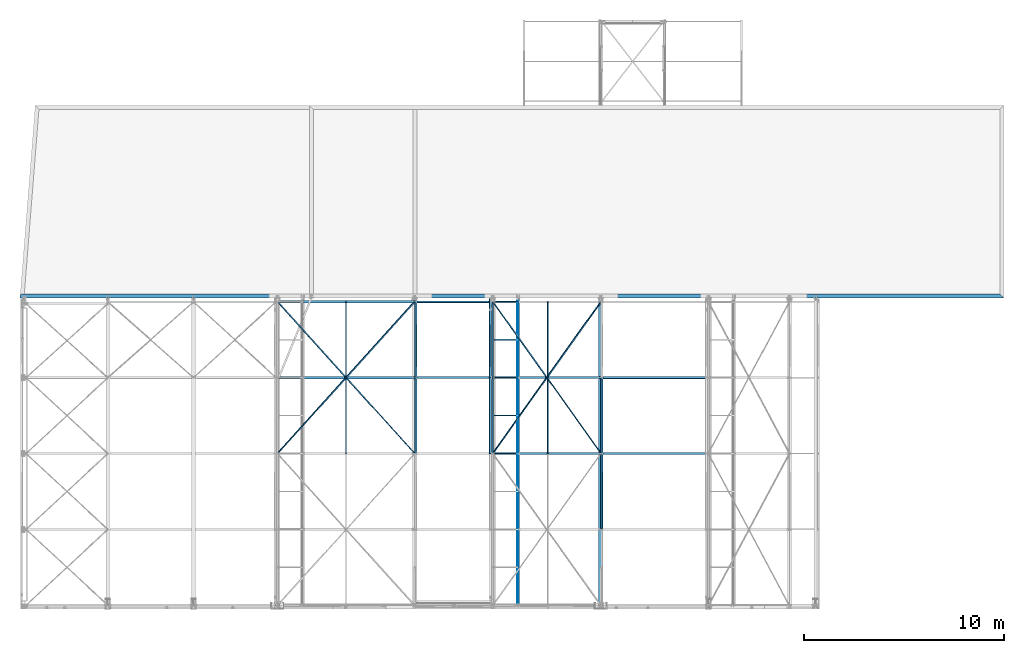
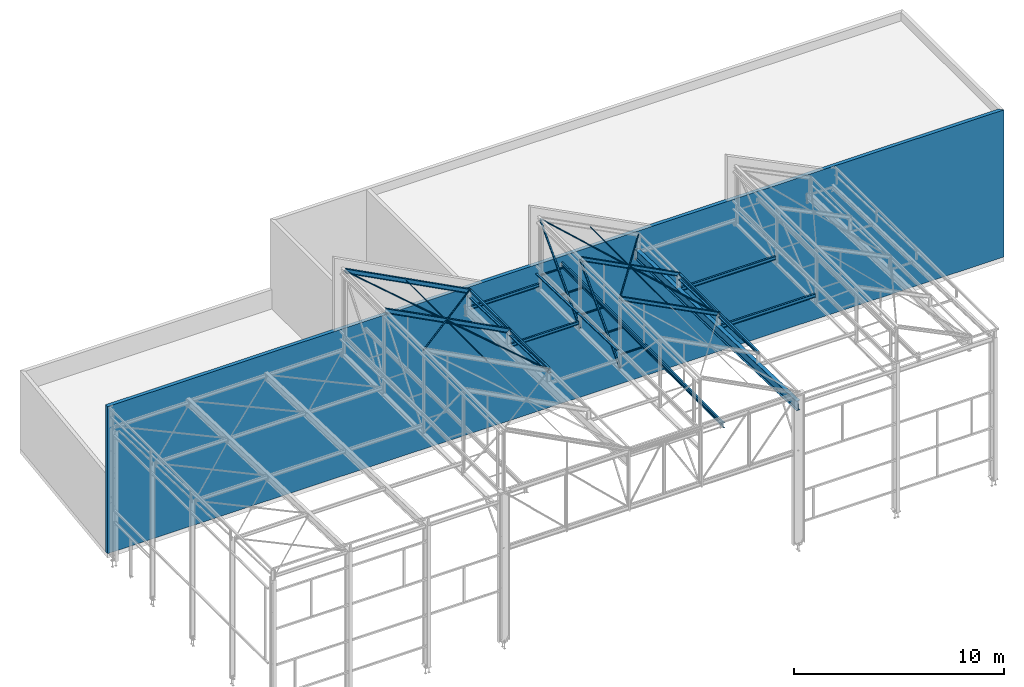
# One storey, part 33 of 123: 31 beams, 6 members, 37 elements without a shape of their own.
"""IFC2X3 building model written with IfcOpenShell, lengths in millimetres."""

from ifc_helpers import new_model, si_unit, frame, origin_with_axes, origin_2d_with_axis, place, context, subcontext, project, spatial, rectangle, hollow_rectangle, i_section, l_section, u_section, extrude, clip, halfspace, material, type_object, element, aggregate, save


model = new_model("IFC2X3")

# Units and contexts
model_context = context("Model", 3, precision=1e-05, world=origin_with_axes())
body_context = subcontext(model_context, "Body", "Model", "MODEL_VIEW")
ifc_project = project(units=[si_unit("LENGTHUNIT", "METRE", prefix="MILLI"), si_unit("AREAUNIT", "SQUARE_METRE"), si_unit("VOLUMEUNIT", "CUBIC_METRE"), si_unit("MASSUNIT", "GRAM", prefix="KILO"), si_unit("TIMEUNIT", "SECOND"), si_unit("PLANEANGLEUNIT", "RADIAN"), si_unit("SOLIDANGLEUNIT", "STERADIAN"), si_unit("THERMODYNAMICTEMPERATUREUNIT", "DEGREE_CELSIUS"), si_unit("LUMINOUSINTENSITYUNIT", "LUMEN")], contexts=[model_context])

# Site, building, storey
site_placement = place(None, origin_with_axes())
site = spatial("IfcSite", under=ifc_project, at=site_placement, Name="Undefined", CompositionType="ELEMENT")
building_placement = place(site_placement, origin_with_axes())
building = spatial("IfcBuilding", under=site, at=building_placement, Name="Undefined", CompositionType="ELEMENT")
storey_placement = place(building_placement, origin_with_axes())
storey = spatial("IfcBuildingStorey", under=building, at=storey_placement, Name="Undefined", CompositionType="ELEMENT", Elevation=0.0)

# Assembly, beam
assembly_1_placement = place(storey_placement, origin_with_axes())
assembly_1 = element("IfcElementAssembly", 1, at=assembly_1_placement, inside=storey, Name="Steel Assembly", AssemblyPlace="NOTDEFINED", PredefinedType="RIGID_FRAME")
ifc_material_1 = material(Name="STEEL/S235-E24")
beam_type_1 = type_object("IfcBeamType", Name="UPF-100*50*4", PredefinedType="NOTDEFINED")
beam_1_placement = place(assembly_1_placement, frame((23353.5000000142, 11400.0, 8171.98873515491), z_axis=(1.0, 0.0, 0.0), x_axis=(0.0, 0.999506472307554, -0.0314135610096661)))
beam_1 = element("IfcBeam", 2, at=beam_1_placement, type_object=beam_type_1, material=ifc_material_1, Name="LISSE CONTREBARDAGE", ObjectType="UPF-100*50*4", context=body_context, shape_type="Clipping", body=[
    clip(extrude(u_section(Depth=100.0, FlangeWidth=50.0, WebThickness=4.0, FlangeThickness=4.0, at=origin_2d_with_axis()), frame((3991.97014790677, 0.0, 0.0), z_axis=(-1.0, 0.0, 0.0), x_axis=(0.0, -1.0, 0.0)), (0.0, 0.0, 1.0), 3992.0), halfspace(frame((3962.74106203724, -25.0, -50.0), z_axis=(0.999506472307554, 0.0314135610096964, 0.0), x_axis=(0.0, 0.0, 1.0)), False)),
])
aggregate(assembly_1, [beam_1])

assembly_2_placement = place(storey_placement, origin_with_axes())
assembly_2 = element("IfcElementAssembly", 3, at=assembly_2_placement, inside=storey, Name="Steel Assembly", AssemblyPlace="NOTDEFINED", PredefinedType="RIGID_FRAME")
beam_2_placement = place(assembly_2_placement, frame((23353.5000000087, 7600.0, 8291.42237510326), z_axis=(1.0, 0.0, 0.0), x_axis=(0.0, 0.999506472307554, -0.0314135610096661)))
beam_2 = element("IfcBeam", 4, at=beam_2_placement, type_object=beam_type_1, material=ifc_material_1, Name="LISSE CONTREBARDAGE", ObjectType="UPF-100*50*4", context=body_context, shape_type="SweptSolid", body=[
    extrude(u_section(Depth=100.0, FlangeWidth=50.0, WebThickness=4.0, FlangeThickness=4.0, at=origin_2d_with_axis()), frame((3801.87643069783, 2.63808171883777e-14, 0.0), z_axis=(-1.0, 0.0, 0.0), x_axis=(0.0, -1.0, 0.0)), (0.0, 0.0, 1.0), 3801.9),
])
aggregate(assembly_2, [beam_2])

assembly_3_placement = place(storey_placement, origin_with_axes())
assembly_3 = element("IfcElementAssembly", 5, at=assembly_3_placement, inside=storey, Name="Steel Assembly", AssemblyPlace="NOTDEFINED", PredefinedType="RIGID_FRAME")
beam_3_placement = place(assembly_3_placement, frame((28930.0000000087, 7600.0, 8291.42237510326), z_axis=(1.0, 0.0, 0.0), x_axis=(0.0, 0.999506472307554, -0.0314135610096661)))
beam_3 = element("IfcBeam", 6, at=beam_3_placement, type_object=beam_type_1, material=ifc_material_1, Name="LISSE CONTREBARDAGE", ObjectType="UPF-100*50*4", context=body_context, shape_type="SweptSolid", body=[
    extrude(u_section(Depth=100.0, FlangeWidth=50.0, WebThickness=4.0, FlangeThickness=4.0, at=origin_2d_with_axis()), frame((3801.87643069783, 2.63808171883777e-14, 0.0), z_axis=(-1.0, 0.0, 0.0), x_axis=(0.0, -1.0, 0.0)), (0.0, 0.0, 1.0), 3801.9),
])
aggregate(assembly_3, [beam_3])

assembly_4_placement = place(storey_placement, origin_with_axes())
assembly_4 = element("IfcElementAssembly", 7, at=assembly_4_placement, inside=storey, Name="Steel Assembly", AssemblyPlace="NOTDEFINED", PredefinedType="RIGID_FRAME")
beam_4_placement = place(assembly_4_placement, frame((28930.0000000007, 3800.0, 8410.85601504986), z_axis=(1.0, 0.0, 0.0), x_axis=(0.0, 0.999506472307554, -0.0314135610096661)))
beam_4 = element("IfcBeam", 8, at=beam_4_placement, type_object=beam_type_1, material=ifc_material_1, Name="LISSE CONTREBARDAGE", ObjectType="UPF-100*50*4", context=body_context, shape_type="SweptSolid", body=[
    extrude(u_section(Depth=100.0, FlangeWidth=50.0, WebThickness=4.0, FlangeThickness=4.0, at=origin_2d_with_axis()), frame((3801.87643069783, 2.63808171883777e-14, 0.0), z_axis=(-1.0, 0.0, 0.0), x_axis=(0.0, -1.0, 0.0)), (0.0, 0.0, 1.0), 3801.9),
])
aggregate(assembly_4, [beam_4])

assembly_5_placement = place(storey_placement, origin_with_axes())
assembly_5 = element("IfcElementAssembly", 9, at=assembly_5_placement, inside=storey, Name="Steel Assembly", AssemblyPlace="NOTDEFINED", PredefinedType="RIGID_FRAME")
beam_5_placement = place(assembly_5_placement, frame((19620.0000000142, 11400.0, 8171.98873515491), z_axis=(1.0, 0.0, 0.0), x_axis=(0.0, 0.999506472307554, -0.0314135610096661)))
beam_5 = element("IfcBeam", 10, at=beam_5_placement, type_object=beam_type_1, material=ifc_material_1, Name="LISSE CONTREBARDAGE", ObjectType="UPF-100*50*4", context=body_context, shape_type="Clipping", body=[
    clip(extrude(u_section(Depth=100.0, FlangeWidth=50.0, WebThickness=4.0, FlangeThickness=4.0, at=origin_2d_with_axis()), frame((3991.97014790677, 0.0, 0.0), z_axis=(-1.0, 0.0, 0.0), x_axis=(0.0, -1.0, 0.0)), (0.0, 0.0, 1.0), 3992.0), halfspace(frame((3962.74106203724, -25.0, -50.0), z_axis=(0.999506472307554, 0.0314135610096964, 0.0), x_axis=(0.0, 0.0, 1.0)), False)),
])
aggregate(assembly_5, [beam_5])

assembly_6_placement = place(storey_placement, origin_with_axes())
assembly_6 = element("IfcElementAssembly", 11, at=assembly_6_placement, inside=storey, Name="Steel Assembly", AssemblyPlace="NOTDEFINED", PredefinedType="RIGID_FRAME")
beam_6_placement = place(assembly_6_placement, frame((19620.0000000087, 7600.0, 8291.42237510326), z_axis=(1.0, 0.0, 0.0), x_axis=(0.0, 0.999506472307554, -0.0314135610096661)))
beam_6 = element("IfcBeam", 12, at=beam_6_placement, type_object=beam_type_1, material=ifc_material_1, Name="LISSE CONTREBARDAGE", ObjectType="UPF-100*50*4", context=body_context, shape_type="SweptSolid", body=[
    extrude(u_section(Depth=100.0, FlangeWidth=50.0, WebThickness=4.0, FlangeThickness=4.0, at=origin_2d_with_axis()), frame((3801.87643069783, 2.63808171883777e-14, 0.0), z_axis=(-1.0, 0.0, 0.0), x_axis=(0.0, -1.0, 0.0)), (0.0, 0.0, 1.0), 3801.9),
])
aggregate(assembly_6, [beam_6])

assembly_7_placement = place(storey_placement, origin_with_axes())
assembly_7 = element("IfcElementAssembly", 13, at=assembly_7_placement, inside=storey, Name="Steel Assembly", AssemblyPlace="NOTDEFINED", PredefinedType="RIGID_FRAME")
beam_type_2 = type_object("IfcBeamType", Name="TUBE-C-60*60*3", PredefinedType="NOTDEFINED")
beam_7_placement = place(assembly_7_placement, frame((23541.500056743, 13300.0, 8015.0), z_axis=(0.0, -1.0, 0.0), x_axis=(1.0, 0.0, 0.0)))
beam_7 = element("IfcBeam", 14, at=beam_7_placement, type_object=beam_type_2, material=ifc_material_1, Name="SOLIVE", ObjectType="TUBE-C-60*60*3", context=body_context, shape_type="SweptSolid", body=[
    extrude(hollow_rectangle(XDim=60.0, YDim=60.0, WallThickness=3.0, InnerFilletRadius=3.0, OuterFilletRadius=6.0, at=origin_2d_with_axis()), frame((1194.99154388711, 0.0, 0.0), z_axis=(-1.0, 0.0, 0.0), x_axis=(0.0, -1.0, 0.0)), (0.0, 0.0, 1.0), 1195.0),
])
aggregate(assembly_7, [beam_7])

assembly_8_placement = place(storey_placement, origin_with_axes())
assembly_8 = element("IfcElementAssembly", 15, at=assembly_8_placement, inside=storey, Name="Steel Assembly", AssemblyPlace="NOTDEFINED", PredefinedType="RIGID_FRAME")
beam_8_placement = place(assembly_8_placement, frame((23541.500056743, 9500.0, 8015.0), z_axis=(0.0, -1.0, 0.0), x_axis=(1.0, 0.0, 0.0)))
beam_8 = element("IfcBeam", 16, at=beam_8_placement, type_object=beam_type_2, material=ifc_material_1, Name="SOLIVE", ObjectType="TUBE-C-60*60*3", context=body_context, shape_type="SweptSolid", body=[
    extrude(hollow_rectangle(XDim=60.0, YDim=60.0, WallThickness=3.0, InnerFilletRadius=3.0, OuterFilletRadius=6.0, at=origin_2d_with_axis()), frame((1194.99154388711, 0.0, 0.0), z_axis=(-1.0, 0.0, 0.0), x_axis=(0.0, -1.0, 0.0)), (0.0, 0.0, 1.0), 1195.0),
])
aggregate(assembly_8, [beam_8])

assembly_9_placement = place(storey_placement, origin_with_axes())
assembly_9 = element("IfcElementAssembly", 17, at=assembly_9_placement, inside=storey, Name="Steel Assembly", AssemblyPlace="NOTDEFINED", PredefinedType="RIGID_FRAME")
beam_9_placement = place(assembly_9_placement, frame((23541.500056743, 15200.0, 8015.0), z_axis=(0.0, -1.0, 0.0), x_axis=(1.0, 0.0, 0.0)))
beam_9 = element("IfcBeam", 18, at=beam_9_placement, type_object=beam_type_2, material=ifc_material_1, Name="SOLIVE", ObjectType="TUBE-C-60*60*3", context=body_context, shape_type="SweptSolid", body=[
    extrude(hollow_rectangle(XDim=60.0, YDim=60.0, WallThickness=3.0, InnerFilletRadius=3.0, OuterFilletRadius=6.0, at=origin_2d_with_axis()), frame((1194.99154388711, 0.0, 0.0), z_axis=(-1.0, 0.0, 0.0), x_axis=(0.0, -1.0, 0.0)), (0.0, 0.0, 1.0), 1195.0),
])
aggregate(assembly_9, [beam_9])

assembly_10_placement = place(storey_placement, origin_with_axes())
assembly_10 = element("IfcElementAssembly", 19, at=assembly_10_placement, inside=storey, Name="Steel Assembly", AssemblyPlace="NOTDEFINED", PredefinedType="RIGID_FRAME")
beam_10_placement = place(assembly_10_placement, frame((23541.500056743, 11400.0, 8015.0), z_axis=(0.0, -1.0, 0.0), x_axis=(1.0, 0.0, 0.0)))
beam_10 = element("IfcBeam", 20, at=beam_10_placement, type_object=beam_type_2, material=ifc_material_1, Name="SOLIVE", ObjectType="TUBE-C-60*60*3", context=body_context, shape_type="SweptSolid", body=[
    extrude(hollow_rectangle(XDim=60.0, YDim=60.0, WallThickness=3.0, InnerFilletRadius=3.0, OuterFilletRadius=6.0, at=origin_2d_with_axis()), frame((1194.99154388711, 0.0, 0.0), z_axis=(-1.0, 0.0, 0.0), x_axis=(0.0, -1.0, 0.0)), (0.0, 0.0, 1.0), 1195.0),
])
aggregate(assembly_10, [beam_10])

assembly_11_placement = place(storey_placement, origin_with_axes())
assembly_11 = element("IfcElementAssembly", 21, at=assembly_11_placement, inside=storey, Name="Steel Assembly", AssemblyPlace="NOTDEFINED", PredefinedType="RIGID_FRAME")
beam_11_placement = place(assembly_11_placement, frame((23541.500056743, 7600.0, 8015.0), z_axis=(0.0, -1.0, 0.0), x_axis=(1.0, 0.0, 0.0)))
beam_11 = element("IfcBeam", 22, at=beam_11_placement, type_object=beam_type_2, material=ifc_material_1, Name="SOLIVE", ObjectType="TUBE-C-60*60*3", context=body_context, shape_type="SweptSolid", body=[
    extrude(hollow_rectangle(XDim=60.0, YDim=60.0, WallThickness=3.0, InnerFilletRadius=3.0, OuterFilletRadius=6.0, at=origin_2d_with_axis()), frame((1194.99154388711, 0.0, 0.0), z_axis=(-1.0, 0.0, 0.0), x_axis=(0.0, -1.0, 0.0)), (0.0, 0.0, 1.0), 1195.0),
])
aggregate(assembly_11, [beam_11])

assembly_12_placement = place(storey_placement, origin_with_axes())
assembly_12 = element("IfcElementAssembly", 23, at=assembly_12_placement, inside=storey, Name="Steel Assembly", AssemblyPlace="NOTDEFINED", PredefinedType="RIGID_FRAME")
beam_type_3 = type_object("IfcBeamType", Name="UPF-300*82.5*6", PredefinedType="NOTDEFINED")
beam_12_placement = place(assembly_12_placement, frame((24777.7416006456, 15360.0000093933, 8090.0), z_axis=(0.0, 0.0, -1.0), x_axis=(0.0, -1.0, 0.0)))
beam_12 = element("IfcBeam", 24, at=beam_12_placement, type_object=beam_type_3, material=ifc_material_1, Name="LONGERON", ObjectType="UPF-300*82.5*6", context=body_context, shape_type="SweptSolid", body=[
    extrude(u_section(Depth=300.0, FlangeWidth=82.5, WebThickness=6.0, FlangeThickness=6.0, at=origin_2d_with_axis()), frame((15430.0000255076, 0.0, 0.0), z_axis=(-1.0, 0.0, 0.0), x_axis=(0.0, -1.0, 0.0)), (0.0, 0.0, 1.0), 15430.0),
])
aggregate(assembly_12, [beam_12])

assembly_13_placement = place(storey_placement, origin_with_axes())
assembly_13 = element("IfcElementAssembly", 25, at=assembly_13_placement, inside=storey, Name="Steel Assembly", AssemblyPlace="NOTDEFINED", PredefinedType="RIGID_FRAME")
beam_type_4 = type_object("IfcBeamType", Name="TUBE-C-100*100*4", PredefinedType="NOTDEFINED")
beam_13_placement = place(assembly_13_placement, frame((28929.9999999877, 7655.0, 8500.0), z_axis=(0.0, 0.0, 1.0), x_axis=(0.0, 1.0, 0.0)))
beam_13 = element("IfcBeam", 26, at=beam_13_placement, type_object=beam_type_4, material=ifc_material_1, Name="LISSE ACROTERE", ObjectType="TUBE-C-100*100*4", context=body_context, shape_type="SweptSolid", body=[
    extrude(hollow_rectangle(XDim=100.0, YDim=100.0, WallThickness=4.0, InnerFilletRadius=4.0, OuterFilletRadius=8.0, at=origin_2d_with_axis()), frame((3690.0, 0.0, 0.0), z_axis=(-1.0, 0.0, 0.0), x_axis=(0.0, -1.0, 0.0)), (0.0, 0.0, 1.0), 3690.0),
])
aggregate(assembly_13, [beam_13])

assembly_14_placement = place(storey_placement, origin_with_axes())
assembly_14 = element("IfcElementAssembly", 27, at=assembly_14_placement, inside=storey, Name="Steel Assembly", AssemblyPlace="NOTDEFINED", PredefinedType="RIGID_FRAME")
beam_14_placement = place(assembly_14_placement, frame((28929.9999999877, 3855.0, 8500.0), z_axis=(0.0, 0.0, 1.0), x_axis=(0.0, 1.0, 0.0)))
beam_14 = element("IfcBeam", 28, at=beam_14_placement, type_object=beam_type_4, material=ifc_material_1, Name="LISSE ACROTERE", ObjectType="TUBE-C-100*100*4", context=body_context, shape_type="SweptSolid", body=[
    extrude(hollow_rectangle(XDim=100.0, YDim=100.0, WallThickness=4.0, InnerFilletRadius=4.0, OuterFilletRadius=8.0, at=origin_2d_with_axis()), frame((3690.0, 0.0, 0.0), z_axis=(-1.0, 0.0, 0.0), x_axis=(0.0, -1.0, 0.0)), (0.0, 0.0, 1.0), 3690.0),
])
aggregate(assembly_14, [beam_14])

assembly_15_placement = place(storey_placement, origin_with_axes())
assembly_15 = element("IfcElementAssembly", 29, at=assembly_15_placement, inside=storey, Name="Steel Assembly", AssemblyPlace="NOTDEFINED", PredefinedType="RIGID_FRAME")
beam_15_placement = place(assembly_15_placement, frame((19619.9999999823, 11465.0, 8500.0), z_axis=(0.0, 0.0, 1.0), x_axis=(0.0, 1.0, 0.0)))
beam_15 = element("IfcBeam", 30, at=beam_15_placement, type_object=beam_type_4, material=ifc_material_1, Name="LISSE ACROTERE", ObjectType="TUBE-C-100*100*4", context=body_context, shape_type="SweptSolid", body=[
    extrude(hollow_rectangle(XDim=100.0, YDim=100.0, WallThickness=4.0, InnerFilletRadius=4.0, OuterFilletRadius=8.0, at=origin_2d_with_axis()), frame((3670.0, 0.0, 0.0), z_axis=(-1.0, 0.0, 0.0), x_axis=(0.0, -1.0, 0.0)), (0.0, 0.0, 1.0), 3670.0),
])
aggregate(assembly_15, [beam_15])

assembly_16_placement = place(storey_placement, origin_with_axes())
assembly_16 = element("IfcElementAssembly", 31, at=assembly_16_placement, inside=storey, Name="Steel Assembly", AssemblyPlace="NOTDEFINED", PredefinedType="RIGID_FRAME")
beam_16_placement = place(assembly_16_placement, frame((19619.9999999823, 7665.0, 8500.0), z_axis=(0.0, 0.0, 1.0), x_axis=(0.0, 1.0, 0.0)))
beam_16 = element("IfcBeam", 32, at=beam_16_placement, type_object=beam_type_4, material=ifc_material_1, Name="LISSE ACROTERE", ObjectType="TUBE-C-100*100*4", context=body_context, shape_type="SweptSolid", body=[
    extrude(hollow_rectangle(XDim=100.0, YDim=100.0, WallThickness=4.0, InnerFilletRadius=4.0, OuterFilletRadius=8.0, at=origin_2d_with_axis()), frame((3670.0, 0.0, 0.0), z_axis=(-1.0, 0.0, 0.0), x_axis=(0.0, -1.0, 0.0)), (0.0, 0.0, 1.0), 3670.0),
])
aggregate(assembly_16, [beam_16])

# Assembly, member
assembly_17_placement = place(storey_placement, origin_with_axes())
assembly_17 = element("IfcElementAssembly", 33, at=assembly_17_placement, inside=storey, Name="Steel Assembly", AssemblyPlace="NOTDEFINED", PredefinedType="RIGID_FRAME")
member_type_1 = type_object("IfcMemberType", Name="TUBE-C-80*80*4", PredefinedType="NOTDEFINED")
member_1_placement = place(assembly_17_placement, frame((23470.0000000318, 11400.0000000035, 11236.0), z_axis=(-1.0, 0.0, 0.0), x_axis=(0.0, -0.690017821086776, -0.723792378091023)))
member_1 = element("IfcMember", 34, at=member_1_placement, type_object=member_type_1, material=ifc_material_1, Name="DIAGONALE", ObjectType="TUBE-C-80*80*4", context=body_context, shape_type="SweptSolid", body=[
    extrude(hollow_rectangle(XDim=80.0, YDim=80.0, WallThickness=4.0, InnerFilletRadius=4.0, OuterFilletRadius=8.0, at=origin_2d_with_axis()), frame((5507.10413919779, -2.12469509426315e-12, 0.0), z_axis=(-1.0, 0.0, 0.0), x_axis=(0.0, -1.0, 0.0)), (0.0, 0.0, 1.0), 5507.1),
])
aggregate(assembly_17, [member_1])

assembly_18_placement = place(storey_placement, origin_with_axes())
assembly_18 = element("IfcElementAssembly", 35, at=assembly_18_placement, inside=storey, Name="Steel Assembly", AssemblyPlace="NOTDEFINED", PredefinedType="RIGID_FRAME")
member_2_placement = place(assembly_18_placement, frame((23470.0000000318, 15200.0000000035, 11236.0), z_axis=(-1.0, 0.0, 0.0), x_axis=(0.0, -0.690017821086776, -0.723792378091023)))
member_2 = element("IfcMember", 36, at=member_2_placement, type_object=member_type_1, material=ifc_material_1, Name="DIAGONALE", ObjectType="TUBE-C-80*80*4", context=body_context, shape_type="SweptSolid", body=[
    extrude(hollow_rectangle(XDim=80.0, YDim=80.0, WallThickness=4.0, InnerFilletRadius=4.0, OuterFilletRadius=8.0, at=origin_2d_with_axis()), frame((5507.10413919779, -2.12469509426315e-12, 0.0), z_axis=(-1.0, 0.0, 0.0), x_axis=(0.0, -1.0, 0.0)), (0.0, 0.0, 1.0), 5507.1),
])
aggregate(assembly_18, [member_2])

# Assembly, beam
assembly_19_placement = place(storey_placement, origin_with_axes())
assembly_19 = element("IfcElementAssembly", 37, at=assembly_19_placement, inside=storey, Name="POUTRE", AssemblyPlace="NOTDEFINED", PredefinedType="REINFORCEMENT_UNIT")
ifc_material_2 = material(Name="CONCRETE/C25/30")
beam_type_5 = type_object("IfcBeamType", Name="8550*200", PredefinedType="NOTDEFINED")
beam_17_placement = place(assembly_19_placement, frame((49080.0, 15490.0, 4275.0), z_axis=(0.0, 0.0, 1.0), x_axis=(-1.0, 0.0, 0.0)))
beam_17 = element("IfcBeam", 38, at=beam_17_placement, type_object=beam_type_5, material=ifc_material_2, Name="POUTRE", ObjectType="8550*200", context=body_context, shape_type="Clipping", body=[
    clip(clip(extrude(rectangle(XDim=200.0, YDim=8550.0, at=origin_2d_with_axis()), frame((49397.3051206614, 0.0, 0.0), z_axis=(-1.0, 0.0, 0.0), x_axis=(0.0, -1.0, 0.0)), (0.0, 0.0, 1.0), 49406.3), halfspace(frame((49267.2931240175, -265.529612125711, -4275.0), z_axis=(0.996882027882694, -0.0789064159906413, 0.0), x_axis=(0.0, 0.0, 1.0)), False)), halfspace(frame((200.000729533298, -100.000153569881, -4275.0), z_axis=(0.707106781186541, 0.707106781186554, 0.0), x_axis=(0.0, 0.0, 1.0)), True)),
])
aggregate(assembly_19, [beam_17])

assembly_20_placement = place(storey_placement, origin_with_axes())
assembly_20 = element("IfcElementAssembly", 39, at=assembly_20_placement, inside=storey, Name="Steel Assembly", AssemblyPlace="NOTDEFINED", PredefinedType="RIGID_FRAME")
beam_type_6 = type_object("IfcBeamType", Name="L50*5", PredefinedType="NOTDEFINED")
beam_18_placement = place(assembly_20_placement, frame((24711.4916006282, 15260.0000894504, 8075.0), z_axis=(-1.0, 0.0, 0.0), x_axis=(0.0, -1.0, 0.0)))
beam_18 = element("IfcBeam", 40, at=beam_18_placement, type_object=beam_type_6, material=ifc_material_1, Name="SUPPORT", ObjectType="L50*5", context=body_context, shape_type="SweptSolid", body=[
    extrude(l_section(Depth=50.0, Width=50.0, Thickness=5.0, FilletRadius=7.0, EdgeRadius=3.5, at=origin_2d_with_axis()), frame((15180.0000000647, 0.0, 0.0), z_axis=(-1.0, 0.0, 0.0), x_axis=(0.0, -1.0, 0.0)), (0.0, 0.0, 1.0), 15180.0),
])
aggregate(assembly_20, [beam_18])

assembly_21_placement = place(storey_placement, origin_with_axes())
assembly_21 = element("IfcElementAssembly", 41, at=assembly_21_placement, inside=storey, Name="Steel Assembly", AssemblyPlace="NOTDEFINED", PredefinedType="RIGID_FRAME")
beam_19_placement = place(assembly_21_placement, frame((23469.9999999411, 15199.9999999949, 11292.6448725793), z_axis=(-0.692721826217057, -0.625522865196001, 0.358967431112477), x_axis=(0.555383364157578, -0.780205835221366, -0.287798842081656)))
beam_19 = element("IfcBeam", 42, at=beam_19_placement, type_object=beam_type_6, material=ifc_material_1, Name="STABILITE CVT", ObjectType="L50*5", context=body_context, shape_type="SweptSolid", body=[
    extrude(l_section(Depth=50.0, Width=50.0, Thickness=5.0, FilletRadius=7.0, EdgeRadius=3.5, at=origin_2d_with_axis()), frame((9741.01917541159, 5.40735188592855e-13, 0.0), z_axis=(-1.0, 0.0, 0.0), x_axis=(0.0, -1.0, 0.0)), (0.0, 0.0, 1.0), 9741.0),
])
aggregate(assembly_21, [beam_19])

assembly_22_placement = place(storey_placement, origin_with_axes())
assembly_22 = element("IfcElementAssembly", 43, at=assembly_22_placement, inside=storey, Name="Steel Assembly", AssemblyPlace="NOTDEFINED", PredefinedType="RIGID_FRAME")
beam_20_placement = place(assembly_22_placement, frame((23469.9999999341, 7600.00000000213, 11292.6448725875), z_axis=(0.692721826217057, -0.625522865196, -0.358967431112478), x_axis=(0.555383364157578, 0.780205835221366, -0.287798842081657)))
beam_20 = element("IfcBeam", 44, at=beam_20_placement, type_object=beam_type_6, material=ifc_material_1, Name="STABILITE CVT", ObjectType="L50*5", context=body_context, shape_type="SweptSolid", body=[
    extrude(l_section(Depth=50.0, Width=50.0, Thickness=5.0, FilletRadius=7.0, EdgeRadius=3.5, at=origin_2d_with_axis()), frame((9741.01917541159, 5.40735188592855e-13, 0.0), z_axis=(-1.0, 0.0, 0.0), x_axis=(0.0, -1.0, 0.0)), (0.0, 0.0, 1.0), 9741.0),
])
aggregate(assembly_22, [beam_20])

assembly_23_placement = place(storey_placement, origin_with_axes())
assembly_23 = element("IfcElementAssembly", 45, at=assembly_23_placement, inside=storey, Name="Steel Assembly", AssemblyPlace="NOTDEFINED", PredefinedType="RIGID_FRAME")
beam_21_placement = place(assembly_23_placement, frame((12680.0000035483, 15200.0000000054, 12071.1908537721), z_axis=(-0.620270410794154, -0.714128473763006, 0.324476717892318), x_axis=(0.632776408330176, -0.70001465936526, -0.331018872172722)))
beam_21 = element("IfcBeam", 46, at=beam_21_placement, type_object=beam_type_6, material=ifc_material_1, Name="STABILITE CVT", ObjectType="L50*5", context=body_context, shape_type="SweptSolid", body=[
    extrude(l_section(Depth=50.0, Width=50.0, Thickness=5.0, FilletRadius=7.0, EdgeRadius=3.5, at=origin_2d_with_axis()), frame((10856.9154949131, 6.0267987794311e-13, 1.50669969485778e-13), z_axis=(-1.0, 0.0, 0.0), x_axis=(0.0, -1.0, 0.0)), (0.0, 0.0, 1.0), 10856.9),
])
aggregate(assembly_23, [beam_21])

assembly_24_placement = place(storey_placement, origin_with_axes())
assembly_24 = element("IfcElementAssembly", 47, at=assembly_24_placement, inside=storey, Name="Steel Assembly", AssemblyPlace="NOTDEFINED", PredefinedType="RIGID_FRAME")
beam_22_placement = place(assembly_24_placement, frame((12680.0000035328, 7600.00000000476, 12071.19085377), z_axis=(0.620270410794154, -0.714128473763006, -0.324476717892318), x_axis=(0.632776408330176, 0.70001465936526, -0.331018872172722)))
beam_22 = element("IfcBeam", 48, at=beam_22_placement, type_object=beam_type_6, material=ifc_material_1, Name="STABILITE CVT", ObjectType="L50*5", context=body_context, shape_type="SweptSolid", body=[
    extrude(l_section(Depth=50.0, Width=50.0, Thickness=5.0, FilletRadius=7.0, EdgeRadius=3.5, at=origin_2d_with_axis()), frame((10856.9154949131, 6.0267987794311e-13, 1.50669969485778e-13), z_axis=(-1.0, 0.0, 0.0), x_axis=(0.0, -1.0, 0.0)), (0.0, 0.0, 1.0), 10856.9),
])
aggregate(assembly_24, [beam_22])

assembly_25_placement = place(storey_placement, origin_with_axes())
assembly_25 = element("IfcElementAssembly", 49, at=assembly_25_placement, inside=storey, Name="Steel Assembly", AssemblyPlace="NOTDEFINED", PredefinedType="RIGID_FRAME")
beam_type_7 = type_object("IfcBeamType", Name="TUBE-C-40*40*4", PredefinedType="NOTDEFINED")
beam_23_placement = place(assembly_25_placement, frame((26213.9906762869, 11400.0000000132, 9870.71294032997), z_axis=(-0.887870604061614, 0.0, 0.460093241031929), x_axis=(0.0, -1.0, 0.0)))
beam_23 = element("IfcBeam", 50, at=beam_23_placement, type_object=beam_type_7, material=ifc_material_1, Name="BUTON", ObjectType="TUBE-C-40*40*4", context=body_context, shape_type="SweptSolid", body=[
    extrude(hollow_rectangle(XDim=40.0, YDim=40.0, WallThickness=4.0, InnerFilletRadius=4.0, OuterFilletRadius=8.0, at=origin_2d_with_axis()), frame((3799.99999999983, 0.0, 0.0), z_axis=(-1.0, 0.0, 0.0), x_axis=(0.0, -1.0, 0.0)), (0.0, 0.0, 1.0), 3800.0),
])
aggregate(assembly_25, [beam_23])

assembly_26_placement = place(storey_placement, origin_with_axes())
assembly_26 = element("IfcElementAssembly", 51, at=assembly_26_placement, inside=storey, Name="Steel Assembly", AssemblyPlace="NOTDEFINED", PredefinedType="RIGID_FRAME")
beam_24_placement = place(assembly_26_placement, frame((26213.9906762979, 15200.0000000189, 9870.71294033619), z_axis=(-0.887870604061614, 0.0, 0.460093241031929), x_axis=(0.0, -1.0, 0.0)))
beam_24 = element("IfcBeam", 52, at=beam_24_placement, type_object=beam_type_7, material=ifc_material_1, Name="BUTON", ObjectType="TUBE-C-40*40*4", context=body_context, shape_type="SweptSolid", body=[
    extrude(hollow_rectangle(XDim=40.0, YDim=40.0, WallThickness=4.0, InnerFilletRadius=4.0, OuterFilletRadius=8.0, at=origin_2d_with_axis()), frame((3799.99999999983, 0.0, 0.0), z_axis=(-1.0, 0.0, 0.0), x_axis=(0.0, -1.0, 0.0)), (0.0, 0.0, 1.0), 3800.0),
])
aggregate(assembly_26, [beam_24])

assembly_27_placement = place(storey_placement, origin_with_axes())
assembly_27 = element("IfcElementAssembly", 53, at=assembly_27_placement, inside=storey, Name="Steel Assembly", AssemblyPlace="NOTDEFINED", PredefinedType="RIGID_FRAME")
beam_25_placement = place(assembly_27_placement, frame((16115.0000008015, 11400.0000000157, 10274.2688892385), z_axis=(-0.886082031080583, 0.0, 0.463528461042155), x_axis=(0.0, -1.0, 0.0)))
beam_25 = element("IfcBeam", 54, at=beam_25_placement, type_object=beam_type_7, material=ifc_material_1, Name="BUTON", ObjectType="TUBE-C-40*40*4", context=body_context, shape_type="SweptSolid", body=[
    extrude(hollow_rectangle(XDim=40.0, YDim=40.0, WallThickness=4.0, InnerFilletRadius=4.0, OuterFilletRadius=8.0, at=origin_2d_with_axis()), frame((3799.99999999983, 0.0, 0.0), z_axis=(-1.0, 0.0, 0.0), x_axis=(0.0, -1.0, 0.0)), (0.0, 0.0, 1.0), 3800.0),
])
aggregate(assembly_27, [beam_25])

assembly_28_placement = place(storey_placement, origin_with_axes())
assembly_28 = element("IfcElementAssembly", 55, at=assembly_28_placement, inside=storey, Name="Steel Assembly", AssemblyPlace="NOTDEFINED", PredefinedType="RIGID_FRAME")
beam_26_placement = place(assembly_28_placement, frame((16115.0000008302, 15200.0000000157, 10274.2688892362), z_axis=(-0.886082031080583, 0.0, 0.463528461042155), x_axis=(0.0, -1.0, 0.0)))
beam_26 = element("IfcBeam", 56, at=beam_26_placement, type_object=beam_type_7, material=ifc_material_1, Name="BUTON", ObjectType="TUBE-C-40*40*4", context=body_context, shape_type="SweptSolid", body=[
    extrude(hollow_rectangle(XDim=40.0, YDim=40.0, WallThickness=4.0, InnerFilletRadius=4.0, OuterFilletRadius=8.0, at=origin_2d_with_axis()), frame((3799.99999999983, 0.0, 0.0), z_axis=(-1.0, 0.0, 0.0), x_axis=(0.0, -1.0, 0.0)), (0.0, 0.0, 1.0), 3800.0),
])
aggregate(assembly_28, [beam_26])

# Assembly, member
assembly_29_placement = place(storey_placement, origin_with_axes())
assembly_29 = element("IfcElementAssembly", 57, at=assembly_29_placement, inside=storey, Name="Steel Assembly", AssemblyPlace="NOTDEFINED", PredefinedType="RIGID_FRAME")
ifc_material_3 = material(Name="STEEL/S275-E28")
member_type_2 = type_object("IfcMemberType", Name="IPE200", PredefinedType="NOTDEFINED")
member_3_placement = place(assembly_29_placement, frame((23493.9906758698, 11399.9999999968, 11280.2129396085), z_axis=(0.46009324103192, -7.00000004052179e-09, 0.887870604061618), x_axis=(0.887870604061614, 0.0, -0.460093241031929)))
member_3 = element("IfcMember", 58, at=member_3_placement, type_object=member_type_2, material=ifc_material_3, Name="TRAVERSE SHED", ObjectType="IPE200", context=body_context, shape_type="Clipping", body=[
    clip(clip(extrude(i_section(OverallWidth=100.0, OverallDepth=200.0, WebThickness=5.599999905, FlangeThickness=8.5, FilletRadius=12.0, at=origin_2d_with_axis()), frame((6236.48041099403, 3.63797880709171e-12, 3.63797880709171e-12), z_axis=(-1.0, 0.0, 0.0), x_axis=(0.0, -1.0, 0.0)), (0.0, 0.0, 1.0), 6354.9), halfspace(frame((6005.40058860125, -7599.99999999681, -100.0), z_axis=(0.854427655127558, 0.0, -0.519570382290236), x_axis=(0.0, -1.0, 0.0)), False)), halfspace(frame((0.0, 0.0, 100.0), z_axis=(-0.887870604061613, 0.0, -0.460093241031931), x_axis=(0.0, -1.0, 0.0)), False)),
])
aggregate(assembly_29, [member_3])

assembly_30_placement = place(storey_placement, origin_with_axes())
assembly_30 = element("IfcElementAssembly", 59, at=assembly_30_placement, inside=storey, Name="Steel Assembly", AssemblyPlace="NOTDEFINED", PredefinedType="RIGID_FRAME")
member_4_placement = place(assembly_30_placement, frame((23493.9906758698, 7599.99999999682, 11280.2129396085), z_axis=(0.46009324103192, -7.00000004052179e-09, 0.887870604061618), x_axis=(0.887870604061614, 0.0, -0.460093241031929)))
member_4 = element("IfcMember", 60, at=member_4_placement, type_object=member_type_2, material=ifc_material_3, Name="TRAVERSE SHED", ObjectType="IPE200", context=body_context, shape_type="Clipping", body=[
    clip(clip(extrude(i_section(OverallWidth=100.0, OverallDepth=200.0, WebThickness=5.599999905, FlangeThickness=8.5, FilletRadius=12.0, at=origin_2d_with_axis()), frame((6236.48041099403, 3.63797880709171e-12, 3.63797880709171e-12), z_axis=(-1.0, 0.0, 0.0), x_axis=(0.0, -1.0, 0.0)), (0.0, 0.0, 1.0), 6354.9), halfspace(frame((6005.40058860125, -3799.99999999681, -100.0), z_axis=(0.854427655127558, 0.0, -0.519570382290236), x_axis=(0.0, -1.0, 0.0)), False)), halfspace(frame((0.0, 0.0, 100.0), z_axis=(-0.887870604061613, 0.0, -0.460093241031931), x_axis=(0.0, -1.0, 0.0)), False)),
])
aggregate(assembly_30, [member_4])

assembly_31_placement = place(storey_placement, origin_with_axes())
assembly_31 = element("IfcElementAssembly", 61, at=assembly_31_placement, inside=storey, Name="Steel Assembly", AssemblyPlace="NOTDEFINED", PredefinedType="RIGID_FRAME")
member_type_3 = type_object("IfcMemberType", Name="IPE240", PredefinedType="NOTDEFINED")
member_5_placement = place(assembly_31_placement, frame((12694.3765846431, 15199.9999999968, 12063.6701562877), z_axis=(0.463528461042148, -7.00000004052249e-09, 0.886082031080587), x_axis=(0.886082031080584, 0.0, -0.463528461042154)))
member_5 = element("IfcMember", 62, at=member_5_placement, type_object=member_type_3, material=ifc_material_3, Name="TRAVERSE SHED", ObjectType="IPE240", context=body_context, shape_type="Clipping", body=[
    clip(clip(extrude(i_section(OverallWidth=120.0, OverallDepth=240.0, WebThickness=6.199999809, FlangeThickness=9.800000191, FilletRadius=15.0, at=origin_2d_with_axis()), frame((7941.81660004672, 0.0, 4.40859382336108e-13), z_axis=(-1.0, 0.0, 0.0), x_axis=(0.0, -1.0, 0.0)), (0.0, 0.0, 1.0), 8083.9), halfspace(frame((7809.66068490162, -11399.9999999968, 119.999998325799), z_axis=(-0.855432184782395, 0.0, 0.517914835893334), x_axis=(0.0, -1.0, 0.0)), True)), halfspace(frame((0.0, 0.0, 120.0), z_axis=(-0.886082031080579, 0.0, -0.463528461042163), x_axis=(0.0, -1.0, 0.0)), False)),
])
aggregate(assembly_31, [member_5])

assembly_32_placement = place(storey_placement, origin_with_axes())
assembly_32 = element("IfcElementAssembly", 63, at=assembly_32_placement, inside=storey, Name="Steel Assembly", AssemblyPlace="NOTDEFINED", PredefinedType="RIGID_FRAME")
member_6_placement = place(assembly_32_placement, frame((12694.3765846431, 11399.9999999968, 12063.6701562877), z_axis=(0.463528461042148, -7.00000004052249e-09, 0.886082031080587), x_axis=(0.886082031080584, 0.0, -0.463528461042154)))
member_6 = element("IfcMember", 64, at=member_6_placement, type_object=member_type_3, material=ifc_material_3, Name="TRAVERSE SHED", ObjectType="IPE240", context=body_context, shape_type="Clipping", body=[
    clip(clip(extrude(i_section(OverallWidth=120.0, OverallDepth=240.0, WebThickness=6.199999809, FlangeThickness=9.800000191, FilletRadius=15.0, at=origin_2d_with_axis()), frame((7941.81660004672, 0.0, 4.40859382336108e-13), z_axis=(-1.0, 0.0, 0.0), x_axis=(0.0, -1.0, 0.0)), (0.0, 0.0, 1.0), 8083.9), halfspace(frame((7809.66068490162, -7599.99999999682, 119.999998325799), z_axis=(-0.855432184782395, 0.0, 0.517914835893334), x_axis=(0.0, -1.0, 0.0)), True)), halfspace(frame((0.0, 0.0, 120.0), z_axis=(-0.886082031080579, 0.0, -0.463528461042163), x_axis=(0.0, -1.0, 0.0)), False)),
])
aggregate(assembly_32, [member_6])

# Assembly, beam
assembly_33_placement = place(storey_placement, origin_with_axes())
assembly_33 = element("IfcElementAssembly", 65, at=assembly_33_placement, inside=storey, Name="Steel Assembly", AssemblyPlace="NOTDEFINED", PredefinedType="RIGID_FRAME")
beam_type_8 = type_object("IfcBeamType", Name="IPE200", PredefinedType="NOTDEFINED")
beam_27_placement = place(assembly_33_placement, frame((28994.9999999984, 11399.9999999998, 7591.69161146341), z_axis=(0.0, 0.0314107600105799, 0.999506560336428), x_axis=(1.0, 0.0, 0.0)))
beam_27 = element("IfcBeam", 66, at=beam_27_placement, type_object=beam_type_8, material=ifc_material_3, Name="PANNE", ObjectType="IPE200", context=body_context, shape_type="SweptSolid", body=[
    extrude(i_section(OverallWidth=100.0, OverallDepth=200.0, WebThickness=5.599999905, FlangeThickness=8.5, FilletRadius=12.0, at=origin_2d_with_axis()), frame((5209.99999999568, 0.0, 0.0), z_axis=(-1.0, 0.0, 0.0), x_axis=(0.0, -1.0, 0.0)), (0.0, 0.0, 1.0), 5210.0),
])
aggregate(assembly_33, [beam_27])

assembly_34_placement = place(storey_placement, origin_with_axes())
assembly_34 = element("IfcElementAssembly", 67, at=assembly_34_placement, inside=storey, Name="Steel Assembly", AssemblyPlace="NOTDEFINED", PredefinedType="RIGID_FRAME")
beam_28_placement = place(assembly_34_placement, frame((28994.9999999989, 7599.99999999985, 7711.11190929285), z_axis=(0.0, 0.0314107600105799, 0.999506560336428), x_axis=(1.0, 0.0, 0.0)))
beam_28 = element("IfcBeam", 68, at=beam_28_placement, type_object=beam_type_8, material=ifc_material_3, Name="PANNE", ObjectType="IPE200", context=body_context, shape_type="SweptSolid", body=[
    extrude(i_section(OverallWidth=100.0, OverallDepth=200.0, WebThickness=5.599999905, FlangeThickness=8.5, FilletRadius=12.0, at=origin_2d_with_axis()), frame((5209.99999999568, 0.0, 0.0), z_axis=(-1.0, 0.0, 0.0), x_axis=(0.0, -1.0, 0.0)), (0.0, 0.0, 1.0), 5210.0),
])
aggregate(assembly_34, [beam_28])

assembly_35_placement = place(storey_placement, origin_with_axes())
assembly_35 = element("IfcElementAssembly", 69, at=assembly_35_placement, inside=storey, Name="Steel Assembly", AssemblyPlace="NOTDEFINED", PredefinedType="RIGID_FRAME")
beam_type_9 = type_object("IfcBeamType", Name="IPE180", PredefinedType="NOTDEFINED")
beam_29_placement = place(assembly_35_placement, frame((19664.9999991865, 15199.9999999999, 7482.27624345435), z_axis=(0.0, 0.0314107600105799, 0.999506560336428), x_axis=(1.0, 0.0, 0.0)))
beam_29 = element("IfcBeam", 70, at=beam_29_placement, type_object=beam_type_9, material=ifc_material_3, Name="PANNE", ObjectType="IPE180", context=body_context, shape_type="SweptSolid", body=[
    extrude(i_section(OverallWidth=91.0, OverallDepth=180.0, WebThickness=5.300000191, FlangeThickness=8.0, FilletRadius=9.0, at=origin_2d_with_axis()), frame((3729.99999999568, 0.0, 0.0), z_axis=(-1.0, 0.0, 0.0), x_axis=(0.0, -1.0, 0.0)), (0.0, 0.0, 1.0), 3730.0),
])
aggregate(assembly_35, [beam_29])

assembly_36_placement = place(storey_placement, origin_with_axes())
assembly_36 = element("IfcElementAssembly", 71, at=assembly_36_placement, inside=storey, Name="Steel Assembly", AssemblyPlace="NOTDEFINED", PredefinedType="RIGID_FRAME")
beam_30_placement = place(assembly_36_placement, frame((19664.9999999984, 11399.9999999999, 7601.69607317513), z_axis=(0.0, 0.0314107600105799, 0.999506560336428), x_axis=(1.0, 0.0, 0.0)))
beam_30 = element("IfcBeam", 72, at=beam_30_placement, type_object=beam_type_9, material=ifc_material_3, Name="PANNE", ObjectType="IPE180", context=body_context, shape_type="SweptSolid", body=[
    extrude(i_section(OverallWidth=91.0, OverallDepth=180.0, WebThickness=5.300000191, FlangeThickness=8.0, FilletRadius=9.0, at=origin_2d_with_axis()), frame((3729.99999999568, 0.0, 0.0), z_axis=(-1.0, 0.0, 0.0), x_axis=(0.0, -1.0, 0.0)), (0.0, 0.0, 1.0), 3730.0),
])
aggregate(assembly_36, [beam_30])

assembly_37_placement = place(storey_placement, origin_with_axes())
assembly_37 = element("IfcElementAssembly", 73, at=assembly_37_placement, inside=storey, Name="Steel Assembly", AssemblyPlace="NOTDEFINED", PredefinedType="RIGID_FRAME")
beam_type_10 = type_object("IfcBeamType", Name="IPE550", PredefinedType="NOTDEFINED")
beam_31_placement = place(assembly_37_placement, frame((28880.0000000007, -8.63795872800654, 7775.13569589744), z_axis=(0.0, -0.0314107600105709, -0.999506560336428), x_axis=(0.0, 0.999506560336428, -0.0314107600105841)))
beam_31 = element("IfcBeam", 74, at=beam_31_placement, type_object=beam_type_10, material=ifc_material_3, Name="TRAVERSE", ObjectType="IPE550", context=body_context, shape_type="Clipping", body=[
    clip(extrude(i_section(OverallWidth=210.0, OverallDepth=550.0, WebThickness=11.10000038, FlangeThickness=17.20000076, FilletRadius=24.0, at=origin_2d_with_axis()), frame((15397.5977849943, 0.0, 0.0), z_axis=(-1.0, 0.0, 0.0), x_axis=(0.0, -1.0, 0.0)), (0.0, 0.0, 1.0), 15397.6), halfspace(frame((15357.5780376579, -105.0, -275.0), z_axis=(0.999506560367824, 0.0, -0.0314107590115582), x_axis=(0.0314107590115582, 0.0, 0.999506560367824)), False)),
])
aggregate(assembly_37, [beam_31])

save(model, "model.ifc")
